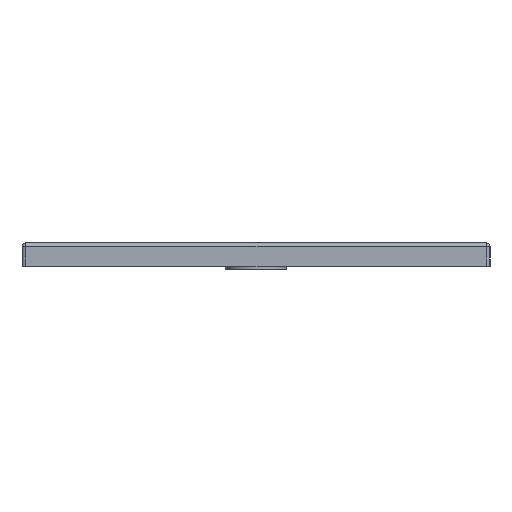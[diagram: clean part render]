
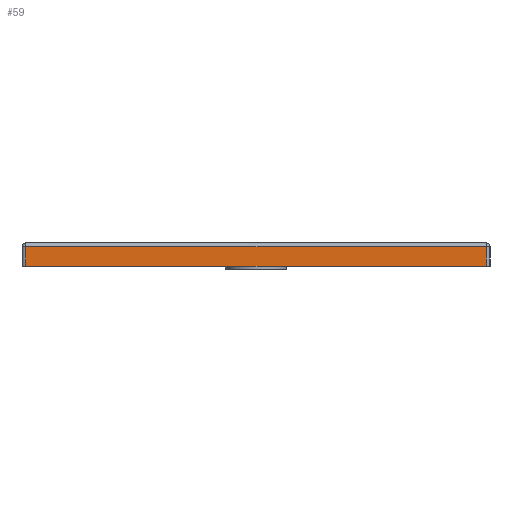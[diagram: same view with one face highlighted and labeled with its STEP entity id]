
A CAD part, left-side view. The second image highlights one B-rep face of the part: STEP entity #59.
In plain terms, the highlighted free-form (B-spline) face has degree [1, 1] with [2, 2] control points.
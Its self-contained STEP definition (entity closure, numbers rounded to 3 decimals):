
#59=ADVANCED_FACE('',(#108),#1480,.T.);
#108=FACE_OUTER_BOUND('',#161,.T.);
#161=EDGE_LOOP('',(#328,#329,#330,#331));
#328=ORIENTED_EDGE('',*,*,#1281,.F.);
#329=ORIENTED_EDGE('',*,*,#1291,.T.);
#330=ORIENTED_EDGE('',*,*,#1282,.F.);
#331=ORIENTED_EDGE('',*,*,#1292,.T.);
#561=B_SPLINE_CURVE_WITH_KNOTS('',1,(#5487,#5488),.UNSPECIFIED.,.F.,.F.,
(2,2),(-38.,0.),.UNSPECIFIED.);
#562=B_SPLINE_CURVE_WITH_KNOTS('',1,(#5489,#5490),.UNSPECIFIED.,.F.,.F.,
(2,2),(-38.,0.),.UNSPECIFIED.);
#564=B_SPLINE_CURVE_WITH_KNOTS('',1,(#5493,#5494),.UNSPECIFIED.,.F.,.F.,
(2,2),(0.,38.),.UNSPECIFIED.);
#565=B_SPLINE_CURVE_WITH_KNOTS('',1,(#5495,#5496),.UNSPECIFIED.,.F.,.F.,
(2,2),(0.,38.),.UNSPECIFIED.);
#582=B_SPLINE_CURVE_WITH_KNOTS('',1,(#5538,#5539),.UNSPECIFIED.,.F.,.F.,
(2,2),(-38.,0.),.UNSPECIFIED.);
#583=B_SPLINE_CURVE_WITH_KNOTS('',1,(#5540,#5541),.UNSPECIFIED.,.F.,.F.,
(2,2),(0.,886.),.UNSPECIFIED.);
#584=B_SPLINE_CURVE_WITH_KNOTS('',1,(#5542,#5543),.UNSPECIFIED.,.F.,.F.,
(2,2),(0.,886.),.UNSPECIFIED.);
#585=B_SPLINE_CURVE_WITH_KNOTS('',1,(#5544,#5545),.UNSPECIFIED.,.F.,.F.,
(2,2),(0.,38.),.UNSPECIFIED.);
#586=B_SPLINE_CURVE_WITH_KNOTS('',1,(#5546,#5547),.UNSPECIFIED.,.F.,.F.,
(2,2),(-886.,0.),.UNSPECIFIED.);
#587=B_SPLINE_CURVE_WITH_KNOTS('',1,(#5548,#5549),.UNSPECIFIED.,.F.,.F.,
(2,2),(-886.,0.),.UNSPECIFIED.);
#611=B_SPLINE_CURVE_WITH_KNOTS('',1,(#5608,#5609),.UNSPECIFIED.,.F.,.F.,
(2,2),(-886.,0.),.UNSPECIFIED.);
#792=PCURVE('',#1459,#1006);
#794=PCURVE('',#1460,#1008);
#806=PCURVE('',#1480,#1020);
#807=PCURVE('',#1480,#1021);
#808=PCURVE('',#1480,#1022);
#809=PCURVE('',#1480,#1023);
#829=PCURVE('',#1465,#1043);
#1006=DEFINITIONAL_REPRESENTATION('',(#562),#5878);
#1008=DEFINITIONAL_REPRESENTATION('',(#565),#5878);
#1020=DEFINITIONAL_REPRESENTATION('',(#582),#5878);
#1021=DEFINITIONAL_REPRESENTATION('',(#584),#5878);
#1022=DEFINITIONAL_REPRESENTATION('',(#585),#5878);
#1023=DEFINITIONAL_REPRESENTATION('',(#587),#5878);
#1043=DEFINITIONAL_REPRESENTATION('',(#611),#5878);
#1169=SURFACE_CURVE('',#561,(#792,#806),.PCURVE_S1.);
#1170=SURFACE_CURVE('',#564,(#794,#808),.PCURVE_S1.);
#1179=SURFACE_CURVE('',#583,(#807),.PCURVE_S1.);
#1180=SURFACE_CURVE('',#586,(#809,#829),.PCURVE_S1.);
#1281=EDGE_CURVE('',#1432,#1424,#1169,.T.);
#1282=EDGE_CURVE('',#1425,#1433,#1170,.T.);
#1291=EDGE_CURVE('',#1432,#1433,#1179,.T.);
#1292=EDGE_CURVE('',#1425,#1424,#1180,.T.);
#1424=VERTEX_POINT('',#4783);
#1425=VERTEX_POINT('',#4784);
#1432=VERTEX_POINT('',#4791);
#1433=VERTEX_POINT('',#4792);
#1459=(
BOUNDED_SURFACE()
B_SPLINE_SURFACE(2,1,((#4170,#4171),(#4172,#4173),(#4174,#4175),(#4176,
#4177),(#4178,#4179),(#4180,#4181),(#4182,#4183),(#4184,#4185),(#4186,#4187)),
 .UNSPECIFIED.,.T.,.F.,.F.)
B_SPLINE_SURFACE_WITH_KNOTS((3,2,2,2,3),(2,2),(0.,1.571,3.142,
4.712,6.283),(0.,45.72),.UNSPECIFIED.)
GEOMETRIC_REPRESENTATION_ITEM()
RATIONAL_B_SPLINE_SURFACE(((1.,1.),(0.707,0.707),
(1.,1.),(0.707,0.707),(1.,1.),(0.707,
0.707),(1.,1.),(0.707,0.707),(1.,1.)))
REPRESENTATION_ITEM('')
SURFACE()
);
#1460=(
BOUNDED_SURFACE()
B_SPLINE_SURFACE(2,1,((#4188,#4189),(#4190,#4191),(#4192,#4193),(#4194,
#4195),(#4196,#4197),(#4198,#4199),(#4200,#4201),(#4202,#4203),(#4204,#4205)),
 .UNSPECIFIED.,.T.,.F.,.F.)
B_SPLINE_SURFACE_WITH_KNOTS((3,2,2,2,3),(2,2),(0.,1.571,3.142,
4.712,6.283),(0.,45.72),.UNSPECIFIED.)
GEOMETRIC_REPRESENTATION_ITEM()
RATIONAL_B_SPLINE_SURFACE(((1.,1.),(0.707,0.707),
(1.,1.),(0.707,0.707),(1.,1.),(0.707,
0.707),(1.,1.),(0.707,0.707),(1.,1.)))
REPRESENTATION_ITEM('')
SURFACE()
);
#1465=(
BOUNDED_SURFACE()
B_SPLINE_SURFACE(2,1,((#4348,#4349),(#4350,#4351),(#4352,#4353),(#4354,
#4355),(#4356,#4357),(#4358,#4359),(#4360,#4361),(#4362,#4363),(#4364,#4365)),
 .UNSPECIFIED.,.T.,.F.,.F.)
B_SPLINE_SURFACE_WITH_KNOTS((3,2,2,2,3),(2,2),(0.,1.571,3.142,
4.712,6.283),(0.,1063.32),.UNSPECIFIED.)
GEOMETRIC_REPRESENTATION_ITEM()
RATIONAL_B_SPLINE_SURFACE(((1.,1.),(0.707,0.707),
(1.,1.),(0.707,0.707),(1.,1.),(0.707,
0.707),(1.,1.),(0.707,0.707),(1.,1.)))
REPRESENTATION_ITEM('')
SURFACE()
);
#1480=B_SPLINE_SURFACE_WITH_KNOTS('',1,1,((#4228,#4229),(#4230,#4231)),
 .UNSPECIFIED.,.F.,.F.,.F.,(2,2),(2,2),(3.14,48.86),(-81.66,981.66),
 .UNSPECIFIED.);
#4170=CARTESIAN_POINT('',(-686.,443.,-3.14));
#4171=CARTESIAN_POINT('',(-686.,443.,-48.86));
#4172=CARTESIAN_POINT('',(-686.,436.,-3.14));
#4173=CARTESIAN_POINT('',(-686.,436.,-48.86));
#4174=CARTESIAN_POINT('',(-693.,436.,-3.14));
#4175=CARTESIAN_POINT('',(-693.,436.,-48.86));
#4176=CARTESIAN_POINT('',(-700.,436.,-3.14));
#4177=CARTESIAN_POINT('',(-700.,436.,-48.86));
#4178=CARTESIAN_POINT('',(-700.,443.,-3.14));
#4179=CARTESIAN_POINT('',(-700.,443.,-48.86));
#4180=CARTESIAN_POINT('',(-700.,450.,-3.14));
#4181=CARTESIAN_POINT('',(-700.,450.,-48.86));
#4182=CARTESIAN_POINT('',(-693.,450.,-3.14));
#4183=CARTESIAN_POINT('',(-693.,450.,-48.86));
#4184=CARTESIAN_POINT('',(-686.,450.,-3.14));
#4185=CARTESIAN_POINT('',(-686.,450.,-48.86));
#4186=CARTESIAN_POINT('',(-686.,443.,-3.14));
#4187=CARTESIAN_POINT('',(-686.,443.,-48.86));
#4188=CARTESIAN_POINT('',(-686.,-443.,-3.14));
#4189=CARTESIAN_POINT('',(-686.,-443.,-48.86));
#4190=CARTESIAN_POINT('',(-686.,-450.,-3.14));
#4191=CARTESIAN_POINT('',(-686.,-450.,-48.86));
#4192=CARTESIAN_POINT('',(-693.,-450.,-3.14));
#4193=CARTESIAN_POINT('',(-693.,-450.,-48.86));
#4194=CARTESIAN_POINT('',(-700.,-450.,-3.14));
#4195=CARTESIAN_POINT('',(-700.,-450.,-48.86));
#4196=CARTESIAN_POINT('',(-700.,-443.,-3.14));
#4197=CARTESIAN_POINT('',(-700.,-443.,-48.86));
#4198=CARTESIAN_POINT('',(-700.,-436.,-3.14));
#4199=CARTESIAN_POINT('',(-700.,-436.,-48.86));
#4200=CARTESIAN_POINT('',(-693.,-436.,-3.14));
#4201=CARTESIAN_POINT('',(-693.,-436.,-48.86));
#4202=CARTESIAN_POINT('',(-686.,-436.,-3.14));
#4203=CARTESIAN_POINT('',(-686.,-436.,-48.86));
#4204=CARTESIAN_POINT('',(-686.,-443.,-3.14));
#4205=CARTESIAN_POINT('',(-686.,-443.,-48.86));
#4228=CARTESIAN_POINT('',(-700.,531.66,-3.14));
#4229=CARTESIAN_POINT('',(-700.,-531.66,-3.14));
#4230=CARTESIAN_POINT('',(-700.,531.66,-48.86));
#4231=CARTESIAN_POINT('',(-700.,-531.66,-48.86));
#4348=CARTESIAN_POINT('',(-693.,531.66,-14.));
#4349=CARTESIAN_POINT('',(-693.,-531.66,-14.));
#4350=CARTESIAN_POINT('',(-686.,531.66,-14.));
#4351=CARTESIAN_POINT('',(-686.,-531.66,-14.));
#4352=CARTESIAN_POINT('',(-686.,531.66,-7.));
#4353=CARTESIAN_POINT('',(-686.,-531.66,-7.));
#4354=CARTESIAN_POINT('',(-686.,531.66,0.));
#4355=CARTESIAN_POINT('',(-686.,-531.66,0.));
#4356=CARTESIAN_POINT('',(-693.,531.66,0.));
#4357=CARTESIAN_POINT('',(-693.,-531.66,0.));
#4358=CARTESIAN_POINT('',(-700.,531.66,0.));
#4359=CARTESIAN_POINT('',(-700.,-531.66,0.));
#4360=CARTESIAN_POINT('',(-700.,531.66,-7.));
#4361=CARTESIAN_POINT('',(-700.,-531.66,-7.));
#4362=CARTESIAN_POINT('',(-700.,531.66,-14.));
#4363=CARTESIAN_POINT('',(-700.,-531.66,-14.));
#4364=CARTESIAN_POINT('',(-693.,531.66,-14.));
#4365=CARTESIAN_POINT('',(-693.,-531.66,-14.));
#4783=CARTESIAN_POINT('',(-700.,443.,-7.));
#4784=CARTESIAN_POINT('',(-700.,-443.,-7.));
#4791=CARTESIAN_POINT('',(-700.,443.,-45.));
#4792=CARTESIAN_POINT('',(-700.,-443.,-45.));
#5487=CARTESIAN_POINT('',(-700.,443.,-45.));
#5488=CARTESIAN_POINT('',(-700.,443.,-7.));
#5489=CARTESIAN_POINT('',(3.142,41.86));
#5490=CARTESIAN_POINT('',(3.142,3.86));
#5493=CARTESIAN_POINT('',(-700.,-443.,-7.));
#5494=CARTESIAN_POINT('',(-700.,-443.,-45.));
#5495=CARTESIAN_POINT('',(3.142,3.86));
#5496=CARTESIAN_POINT('',(3.142,41.86));
#5538=CARTESIAN_POINT('',(45.,7.));
#5539=CARTESIAN_POINT('',(7.,7.));
#5540=CARTESIAN_POINT('',(-700.,443.,-45.));
#5541=CARTESIAN_POINT('',(-700.,-443.,-45.));
#5542=CARTESIAN_POINT('',(45.,7.));
#5543=CARTESIAN_POINT('',(45.,893.));
#5544=CARTESIAN_POINT('',(7.,893.));
#5545=CARTESIAN_POINT('',(45.,893.));
#5546=CARTESIAN_POINT('',(-700.,-443.,-7.));
#5547=CARTESIAN_POINT('',(-700.,443.,-7.));
#5548=CARTESIAN_POINT('',(7.,893.));
#5549=CARTESIAN_POINT('',(7.,7.));
#5608=CARTESIAN_POINT('',(4.712,974.66));
#5609=CARTESIAN_POINT('',(4.712,88.66));
#5878=(
GEOMETRIC_REPRESENTATION_CONTEXT(2)
PARAMETRIC_REPRESENTATION_CONTEXT()
REPRESENTATION_CONTEXT('pspace','')
);
